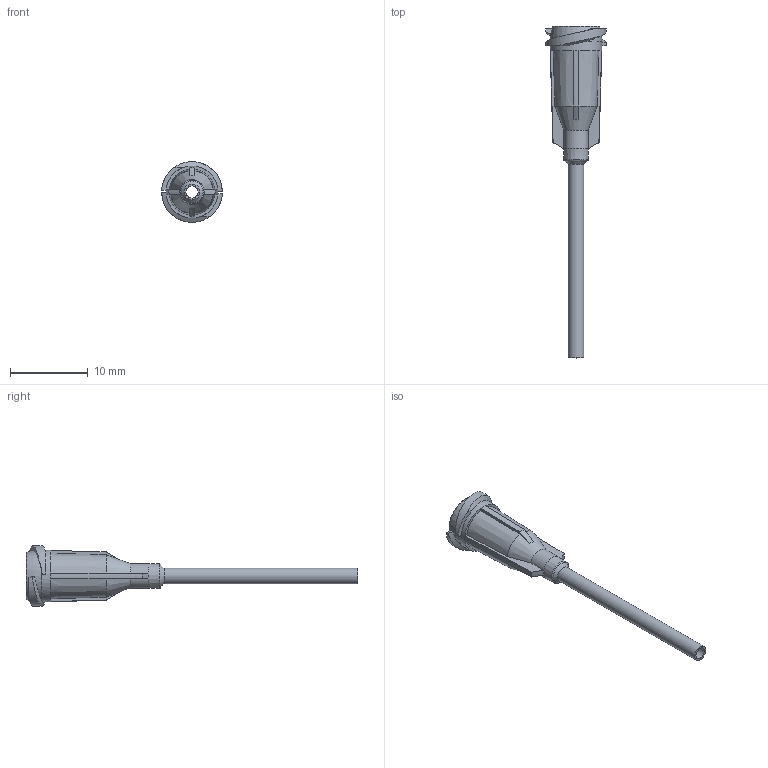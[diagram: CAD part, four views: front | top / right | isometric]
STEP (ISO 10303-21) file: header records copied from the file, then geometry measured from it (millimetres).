
FILE_DESCRIPTION (( 'STEP AP214' ), '1' );
FILE_NAME ('DAV PP 14 10.STEP', '2023-09-28T15:11:18', ( '' ), ( '' ), 'SwSTEP 2.0', 'SolidWorks 2022', '' );
FILE_SCHEMA (( 'AUTOMOTIVE_DESIGN' ));
Length unit declared in the file: millimetre
Products named in the file (1): DAV PP 14 10
Bounding box: 7.82 x 42.77 x 7.81 mm (x, y, z)
Volume: 285 mm3; surface area: 832.9 mm2
Topology: 1 solids, 1 shells, 63 faces, 161 edges, 101 vertices
Faces by surface type: plane 23, cone 16, bspline 10, cylinder 7, torus 7
Full cylindrical faces by diameter (mm): 1.55 x1, 2.03 x1, 2.87 x1, 6.655 x1
Entity records: 2066 total; most frequent: CARTESIAN_POINT 796, ORIENTED_EDGE 262, DIRECTION 228, EDGE_CURVE 131, AXIS2_PLACEMENT_3D 99, VERTEX_POINT 89, EDGE_LOOP 80, FACE_OUTER_BOUND 71
